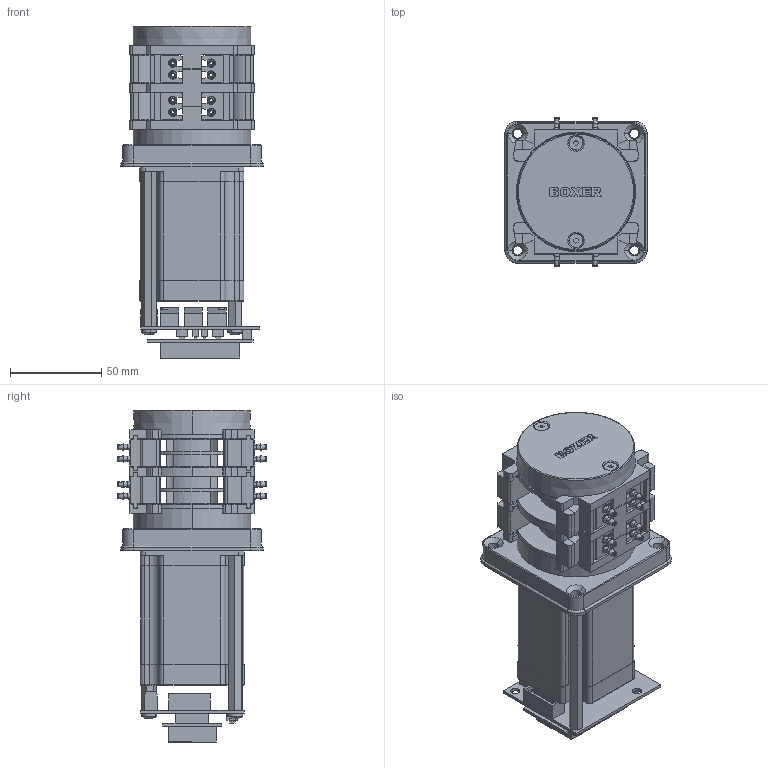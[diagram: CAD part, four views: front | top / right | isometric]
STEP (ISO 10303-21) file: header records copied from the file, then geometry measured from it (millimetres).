
FILE_DESCRIPTION (( 'STEP AP203' ), '1' );
FILE_NAME ('6342.105-1mm.STEP', '2018-11-17T19:02:11', ( '' ), ( '' ), 'SwSTEP 2.0', 'SolidWorks 2015', '' );
FILE_SCHEMA (( 'CONFIG_CONTROL_DESIGN' ));
Length unit declared in the file: millimetre
Products named in the file (1): 6342.105-1mm
Bounding box: 78 x 81.95 x 182.06 mm (x, y, z)
Surface area: 95871.9 mm2 (no closed solid volume)
Topology: 0 solids, 90 shells, 1135 faces, 3890 edges, 2774 vertices
Faces by surface type: plane 607, cylinder 357, cone 121, torus 30, bspline 16, sphere 4
Entity records: 43143 total; most frequent: CARTESIAN_POINT 9172, DIRECTION 7319, ORIENTED_EDGE 6164, EDGE_CURVE 3890, VERTEX_POINT 2774, LINE 2537, VECTOR 2537, AXIS2_PLACEMENT_3D 2391
